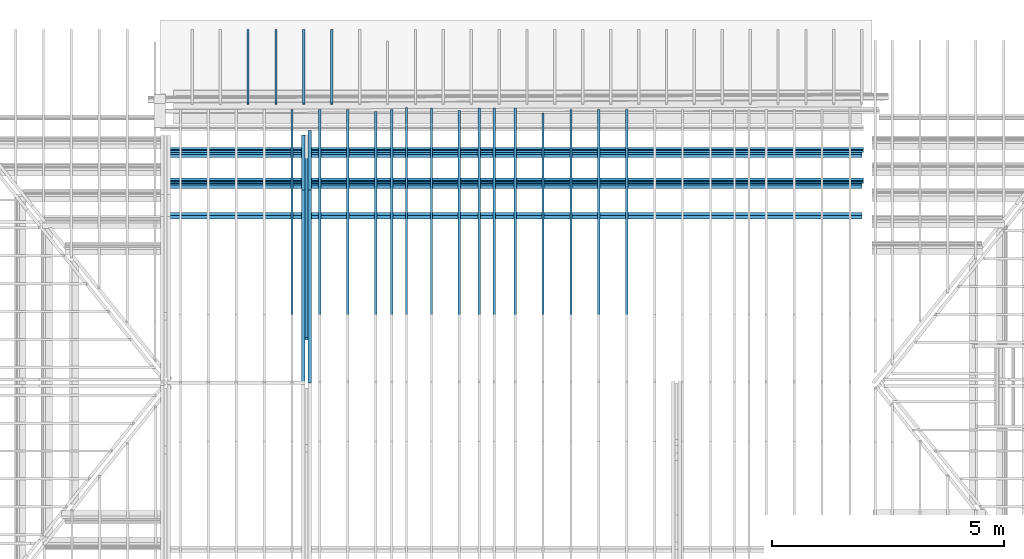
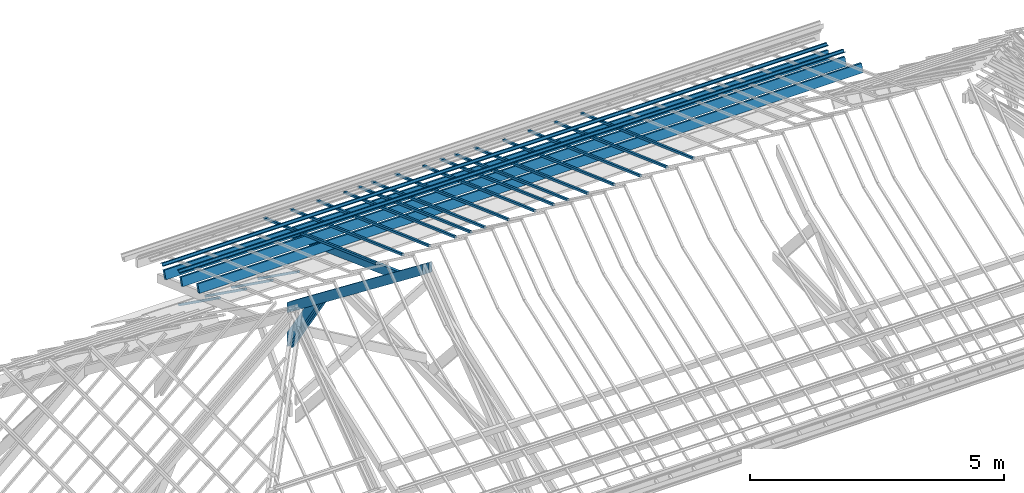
# One storey, part 8 of 18: 29 beams.
"""IFC2X3 building model written with IfcOpenShell, lengths in centimetres."""

from ifc_helpers import new_model, entity, si_unit, converted_unit, direction, frame, frame_2d, origin, origin_2d_with_axis, place, context, subcontext, project, spatial, polyline, circle_curve, parameter, trimmed, segment, composite_curve, rectangle, outline, extrude, clip, halfspace, material, type_object, element, save


model = new_model("IFC2X3")

# Units and contexts
model_context = context("Model", 3, precision=0.001, world=frame((0.0, 0.0, 13090.0)), true_north=direction((6.123233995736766e-17, 1.0)))
body_context = subcontext(model_context, "Body", "Model", "MODEL_VIEW")
ifc_project = project(units=[si_unit("LENGTHUNIT", "METRE", prefix="CENTI"), si_unit("AREAUNIT", "SQUARE_METRE"), si_unit("VOLUMEUNIT", "CUBIC_METRE"), converted_unit("PLANEANGLEUNIT", "DEGREE", entity("IfcPlaneAngleMeasure", 0.017453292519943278), si_unit("PLANEANGLEUNIT", "RADIAN"), dimensions=[0, 0, 0, 0, 0, 0, 0])], contexts=[model_context])

# Site, building, storey
site_placement = place(None, origin())
site = spatial("IfcSite", under=ifc_project, at=site_placement, Name="Default", CompositionType="ELEMENT")
building_placement = place(site_placement, origin())
building = spatial("IfcBuilding", under=site, at=building_placement, Name="e 39 logements et 22 maisons relais", CompositionType="ELEMENT")
storey_placement = place(building_placement, frame((0.0, 0.0, 610.0)))
storey = spatial("IfcBuildingStorey", under=building, at=storey_placement, Name="R+2", CompositionType="ELEMENT", Elevation=609.9999999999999)

# Beams
ifc_material_1 = material(Name="Bois - Bois de construction de dimensions courantes")
beam_type_1 = type_object("IfcBeamType", Name="Poutre - Bois de construction de dimensions courantes:70 200", PredefinedType="BEAM")
beam_1_placement = place(storey_placement, frame((-609.2819705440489, 620.5476302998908, 32.017353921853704), z_axis=(0.0, 0.3420201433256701, 0.939692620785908), x_axis=(0.0, -0.939692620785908, 0.3420201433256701)))
element("IfcBeam", 1, at=beam_1_placement, inside=storey, type_object=beam_type_1, material=ifc_material_1, Name="Poutre - Bois de construction de dimensions courantes:70 200", ObjectType="Poutre - Bois de construction de dimensions courantes:70 200", context=body_context, shape_type="Clipping", body=[
    clip(clip(extrude(rectangle(XDim=20.000000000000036, YDim=7.000000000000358, at=frame_2d((5.395683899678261e-14, -5.062616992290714e-14), x_axis=(0.0, 1.0))), frame((88.51981701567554, 0.0, -72.0), z_axis=(1.0, 0.0, 0.0), x_axis=(0.0, 1.0, 0.0)), (0.0, 0.0, 1.0), 469.80495065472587), halfspace(frame((406.3746549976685, 692.7097326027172, -126.9576591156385), z_axis=(0.30651873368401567, 0.0, -0.9518646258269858), x_axis=(0.0, -1.0, 0.0)), False)), halfspace(frame((108.43711462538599, 692.709732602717, -23.39222819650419), z_axis=(-0.946818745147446, 0.0, 0.3217674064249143), x_axis=(0.0, -1.0, 0.0)), False)),
])
beam_2_placement = place(storey_placement, frame((-602.2819705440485, 453.59121775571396, -45.190373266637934), z_axis=(0.0, 0.6135902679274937, 0.7896245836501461), x_axis=(0.0, -0.7896245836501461, 0.6135902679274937)))
element("IfcBeam", 2, at=beam_2_placement, inside=storey, type_object=beam_type_1, material=ifc_material_1, Name="Poutre - Bois de construction de dimensions courantes:70 200", ObjectType="Poutre - Bois de construction de dimensions courantes:70 200", context=body_context, shape_type="Clipping", body=[
    clip(clip(extrude(rectangle(XDim=19.999999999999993, YDim=7.00000000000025, at=frame_2d((2.1316282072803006e-14, 5.417888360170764e-14), x_axis=(1.0, 0.0))), frame((-135.4129744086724, 0.0, -72.0), z_axis=(1.0, 0.0, 0.0), x_axis=(0.0, 0.0, -1.0)), (0.0, 0.0, 1.0), 691.300022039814), halfspace(frame((583.1394885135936, -722.2841565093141, -26.929044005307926), z_axis=(0.7896245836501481, 0.0, -0.613590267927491), x_axis=(0.0, 1.0, 0.0)), False)), halfspace(frame((-172.2556364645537, -722.2841565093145, -129.4125376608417), z_axis=(-0.7896245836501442, 0.0, 0.6135902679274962), x_axis=(0.0, 1.0, 0.0)), False)),
])
beam_3_placement = place(storey_placement, frame((-602.2819705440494, 410.93499768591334, -58.25709603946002), z_axis=(1.0, 0.0, 0.0), x_axis=(0.0, -0.5644090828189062, 0.8254952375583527)))
element("IfcBeam", 3, at=beam_3_placement, inside=storey, type_object=beam_type_1, material=ifc_material_1, Name="Poutre - Bois de construction de dimensions courantes:70 200", ObjectType="Poutre - Bois de construction de dimensions courantes:70 200", context=body_context, shape_type="Clipping", body=[
    clip(clip(extrude(rectangle(XDim=19.999999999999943, YDim=7.000000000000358, at=frame_2d((-5.417888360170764e-14, 1.0480505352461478e-13), x_axis=(0.0, 1.0))), frame((-250.89013351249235, 30.0, 0.0), z_axis=(1.0, 0.0, 0.0), x_axis=(0.0, 0.0, -1.0)), (0.0, 0.0, 1.0), 226.59915696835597), halfspace(frame((-268.89013283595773, 52.306991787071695, -628.0494014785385), z_axis=(-0.5644090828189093, -0.8254952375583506, 0.0), x_axis=(0.0, 0.0, 1.0)), False)), halfspace(frame((167.9941224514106, 101.69592037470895, 628.0494014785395), z_axis=(0.30551541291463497, -0.9521871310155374, 0.0), x_axis=(0.0, 0.0, -1.0)), False)),
])
beam_4_placement = place(storey_placement, frame((-616.281970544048, 401.4272578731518, -44.351235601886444), z_axis=(1.0, 0.0, 0.0), x_axis=(0.0, -0.5644090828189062, 0.8254952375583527)))
element("IfcBeam", 4, at=beam_4_placement, inside=storey, type_object=beam_type_1, material=ifc_material_1, Name="Poutre - Bois de construction de dimensions courantes:70 200", ObjectType="Poutre - Bois de construction de dimensions courantes:70 200", context=body_context, shape_type="Clipping", body=[
    clip(clip(extrude(rectangle(XDim=20.0, YDim=7.000000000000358, at=frame_2d((-5.417888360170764e-14, 0.0), x_axis=(0.0, 1.0))), frame((-250.89013351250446, 30.0, 0.0), z_axis=(1.0, 0.0, 0.0), x_axis=(0.0, 0.0, -1.0)), (0.0, 0.0, 1.0), 209.7536806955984), halfspace(frame((-268.89013283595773, 52.30699178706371, -628.0494014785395), z_axis=(-0.5644090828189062, -0.8254952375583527, 0.0), x_axis=(0.0, 0.0, 1.0)), False)), halfspace(frame((168.627515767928, 107.30412897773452, 628.0494014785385), z_axis=(0.30551541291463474, -0.9521871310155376, 0.0), x_axis=(0.0, 0.0, -1.0)), False)),
])
beam_5_placement = place(storey_placement, frame((-616.2819705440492, 456.493466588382, -39.84706399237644), z_axis=(0.0, 0.6135902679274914, 0.789624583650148), x_axis=(0.0, -0.789624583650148, 0.6135902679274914)))
element("IfcBeam", 5, at=beam_5_placement, inside=storey, type_object=beam_type_1, material=ifc_material_1, Name="Poutre - Bois de construction de dimensions courantes:70 200", ObjectType="Poutre - Bois de construction de dimensions courantes:70 200", context=body_context, shape_type="Clipping", body=[
    clip(clip(extrude(rectangle(XDim=20.000000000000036, YDim=7.000000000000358, at=frame_2d((-4.263256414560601e-14, 0.0), x_axis=(1.0, 0.0))), frame((-136.39988995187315, 0.0, -78.0), z_axis=(1.0, 0.0, 0.0), x_axis=(0.0, 0.0, -1.0)), (0.0, 0.0, 1.0), 691.3000220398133), halfspace(frame((583.9191696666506, -725.7454428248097, -30.65562434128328), z_axis=(0.789624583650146, 0.0, -0.6135902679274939), x_axis=(0.0, 1.0, 0.0)), False)), halfspace(frame((-172.90479902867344, -725.7454428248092, -134.97788595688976), z_axis=(-0.789624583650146, 0.0, 0.6135902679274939), x_axis=(0.0, 1.0, 0.0)), False)),
])
beam_6_placement = place(storey_placement, frame((-570.9302602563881, 474.0583177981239, 46.699999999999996), z_axis=(-0.0007705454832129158, 0.0, 0.9999997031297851), x_axis=(-0.9999997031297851, 0.0, -0.0007705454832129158)))
element("IfcBeam", 6, at=beam_6_placement, inside=storey, type_object=beam_type_1, material=ifc_material_1, Name="Poutre - Bois de construction de dimensions courantes:70 200", ObjectType="Poutre - Bois de construction de dimensions courantes:70 200", context=body_context, shape_type="SweptSolid", body=[
    extrude(rectangle(XDim=20.000000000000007, YDim=7.000000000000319, at=frame_2d((2.55351295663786e-14, -9.769962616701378e-15), x_axis=(0.0, 1.0))), frame((-1156.6203279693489, 5.9169484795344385, -16.256682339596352), z_axis=(1.0, 0.0, 0.0), x_axis=(0.0, -0.9396926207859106, -0.3420201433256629)), (0.0, 0.0, 1.0), 1508.7195752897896),
])
beam_7_placement = place(storey_placement, frame((-570.9302602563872, 342.41458209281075, 94.23000000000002), z_axis=(-0.0016107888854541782, 0.0, 0.9999987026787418), x_axis=(-0.9999987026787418, 0.0, -0.0016107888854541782)))
element("IfcBeam", 7, at=beam_7_placement, inside=storey, type_object=beam_type_1, material=ifc_material_1, Name="Poutre - Bois de construction de dimensions courantes:70 200", ObjectType="Poutre - Bois de construction de dimensions courantes:70 200", context=body_context, shape_type="SweptSolid", body=[
    extrude(rectangle(XDim=19.999999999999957, YDim=7.000000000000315, at=frame_2d((9.481304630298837e-14, 2.3092638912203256e-14), x_axis=(0.0, 1.0))), frame((-1156.6202171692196, 5.95115049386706, -16.350651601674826), z_axis=(1.0, 0.0, 0.0), x_axis=(0.0, -0.9396926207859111, -0.3420201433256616)), (0.0, 0.0, 1.0), 1508.71957528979),
])
beam_8_placement = place(storey_placement, frame((-570.9302602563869, 408.28168964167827, 70.52), z_axis=(-0.0012547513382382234, 0.0, 0.9999992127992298), x_axis=(-0.9999992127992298, 0.0, -0.0012547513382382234)))
element("IfcBeam", 8, at=beam_8_placement, inside=storey, type_object=beam_type_1, material=ifc_material_1, Name="Poutre - Bois de construction de dimensions courantes:70 200", ObjectType="Poutre - Bois de construction de dimensions courantes:70 200", context=body_context, shape_type="SweptSolid", body=[
    extrude(rectangle(XDim=19.999999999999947, YDim=7.000000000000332, at=frame_2d((-6.23945339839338e-14, -9.14823772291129e-14), x_axis=(0.0, 1.0))), frame((-1156.6202736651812, 5.9853525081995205, -16.444620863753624), z_axis=(1.0, 0.0, 0.0), x_axis=(0.0, -0.9396926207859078, -0.3420201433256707)), (0.0, 0.0, 1.0), 1508.71957528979),
])
ifc_material_2 = material(Name="neuf")
beam_type_2 = type_object("IfcBeamType", Name="panne z:panne z", PredefinedType="BEAM")
beam_9_placement = place(storey_placement, frame((-570.9302602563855, 480.2651849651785, 55.60000000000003), z_axis=(-0.0007470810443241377, 0.0, 0.9999997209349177), x_axis=(-0.9999997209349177, 0.0, -0.0007470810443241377)))
element("IfcBeam", 9, at=beam_9_placement, inside=storey, type_object=beam_type_2, material=ifc_material_2, Name="panne z:panne z", ObjectType="panne z:panne z", context=body_context, shape_type="SweptSolid", body=[
    extrude(outline(composite_curve([segment(polyline([(0.3000000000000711, -3.0), (4.600000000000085, -3.0)]), True, "CONTINUOUS"), segment(trimmed(circle_curve(frame_2d((4.599999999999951, -2.5999999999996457), x_axis=(0.0, -1.0)), 0.40000000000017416), [parameter(0.0)], [parameter(89.99999999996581)], True, "PARAMETER"), True, "CONTINUOUS"), segment(polyline([(5.0, -2.599999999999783), (5.0, -1.0)]), True, "CONTINUOUS"), segment(polyline([(5.0, -1.0), (4.800000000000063, -1.0)]), True, "CONTINUOUS"), segment(polyline([(4.80000000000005, -1.0), (4.8000000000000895, -2.5999999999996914)]), True, "CONTINUOUS"), segment(trimmed(circle_curve(frame_2d((4.6000000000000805, -2.5999999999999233), x_axis=(1.0, 0.0)), 0.19999999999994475), [parameter(269.9999999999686)], [parameter(0.0)], True, "PARAMETER"), False, "CONTINUOUS"), segment(polyline([(4.600000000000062, -2.7999999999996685), (0.30000000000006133, -2.7999999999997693)]), True, "CONTINUOUS"), segment(trimmed(circle_curve(frame_2d((0.3000000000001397, -2.5999999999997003), x_axis=(0.0, -1.0)), 0.20000000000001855), [parameter(270.0000000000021)], [parameter(0.0)], True, "PARAMETER"), False, "CONTINUOUS"), segment(polyline([(0.10000000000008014, -2.599999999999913), (0.10000000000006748, 2.6000000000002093)]), True, "CONTINUOUS"), segment(trimmed(circle_curve(frame_2d((-0.30000000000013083, 2.6000000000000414), x_axis=(1.0, 0.0)), 0.40000000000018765), [parameter(0.0)], [parameter(89.99999999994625)], True, "PARAMETER"), True, "CONTINUOUS"), segment(polyline([(-0.2999999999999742, 3.0), (-4.5999999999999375, 3.0)]), True, "CONTINUOUS"), segment(trimmed(circle_curve(frame_2d((-4.5999999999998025, 2.600000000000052), x_axis=(0.0, 1.0)), 0.4000000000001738), [parameter(0.0)], [parameter(89.99999999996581)], True, "PARAMETER"), True, "CONTINUOUS"), segment(polyline([(-5.0, 2.600000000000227), (-5.0, 1.0)]), True, "CONTINUOUS"), segment(polyline([(-5.0, 1.0), (-4.799999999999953, 1.0)]), True, "CONTINUOUS"), segment(polyline([(-4.799999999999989, 1.0), (-4.799999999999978, 2.5999999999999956)]), True, "CONTINUOUS"), segment(trimmed(circle_curve(frame_2d((-4.599999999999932, 2.60000000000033), x_axis=(-1.0, 0.0)), 0.19999999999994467), [parameter(269.9999999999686)], [parameter(0.0)], True, "PARAMETER"), False, "CONTINUOUS"), segment(polyline([(-4.599999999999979, 2.800000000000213), (-0.2999999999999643, 2.8000000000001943)]), True, "CONTINUOUS"), segment(trimmed(circle_curve(frame_2d((-0.3000000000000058, 2.600000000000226), x_axis=(0.0, 1.0)), 0.20000000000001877), [parameter(270.0000000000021)], [parameter(0.0)], True, "PARAMETER"), False, "CONTINUOUS"), segment(polyline([(-0.10000000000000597, 2.6000000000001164), (-0.09999999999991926, -2.5999999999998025)]), True, "CONTINUOUS"), segment(trimmed(circle_curve(frame_2d((0.30000000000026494, -2.599999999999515), x_axis=(-1.0, 0.0)), 0.40000000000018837), [parameter(0.0)], [parameter(89.99999999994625)], True, "PARAMETER"), True, "CONTINUOUS")], self_intersect=False)), frame((-1159.7812856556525, 2.5591430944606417, -7.0311878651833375), z_axis=(1.0, 0.0, 0.0), x_axis=(0.0, -0.9396926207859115, -0.34202014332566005)), (0.0, 0.0, 1.0), 1511.8805619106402),
])
beam_10_placement = place(storey_placement, frame((-570.9302602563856, 414.1836422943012, 79.48000000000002), z_axis=(-0.0010059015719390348, 0.0, 0.9999994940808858), x_axis=(-0.9999994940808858, 0.0, -0.0010059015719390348)))
element("IfcBeam", 10, at=beam_10_placement, inside=storey, type_object=beam_type_2, material=ifc_material_2, Name="panne z:panne z", ObjectType="panne z:panne z", context=body_context, shape_type="SweptSolid", body=[
    extrude(outline(composite_curve([segment(polyline([(0.29999999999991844, -3.0), (4.5999999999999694, -3.0)]), True, "CONTINUOUS"), segment(trimmed(circle_curve(frame_2d((4.599999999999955, -2.599999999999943), x_axis=(0.0, -1.0)), 0.40000000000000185), [parameter(0.0)], [parameter(89.99999999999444)], True, "PARAMETER"), True, "CONTINUOUS"), segment(polyline([(5.0, -2.599999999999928), (5.0, -1.0)]), True, "CONTINUOUS"), segment(polyline([(5.0, -1.0), (4.800000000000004, -1.0)]), True, "CONTINUOUS"), segment(polyline([(4.799999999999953, -1.0), (4.79999999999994, -2.5999999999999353)]), True, "CONTINUOUS"), segment(trimmed(circle_curve(frame_2d((4.600000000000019, -2.6000000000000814), x_axis=(1.0, 0.0)), 0.19999999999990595), [parameter(269.9999999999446)], [parameter(0.0)], True, "PARAMETER"), False, "CONTINUOUS"), segment(polyline([(4.599999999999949, -2.799999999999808), (0.29999999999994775, -2.799999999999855)]), True, "CONTINUOUS"), segment(trimmed(circle_curve(frame_2d((0.29999999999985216, -2.599999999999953), x_axis=(0.0, -1.0)), 0.1999999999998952), [parameter(269.9999999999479)], [parameter(0.0)], True, "PARAMETER"), False, "CONTINUOUS"), segment(polyline([(0.099999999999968, -2.599999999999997), (0.099999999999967, 2.600000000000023)]), True, "CONTINUOUS"), segment(trimmed(circle_curve(frame_2d((-0.3000000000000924, 2.599999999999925), x_axis=(1.0, 0.0)), 0.4000000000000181), [parameter(0.0)], [parameter(90.00000000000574)], True, "PARAMETER"), True, "CONTINUOUS"), segment(polyline([(-0.3000000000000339, 3.0), (-4.600000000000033, 3.0)]), True, "CONTINUOUS"), segment(trimmed(circle_curve(frame_2d((-4.599999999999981, 2.600000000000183), x_axis=(0.0, 1.0)), 0.40000000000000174), [parameter(0.0)], [parameter(89.99999999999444)], True, "PARAMETER"), True, "CONTINUOUS"), segment(polyline([(-5.0, 2.600000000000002), (-5.0, 1.0)]), True, "CONTINUOUS"), segment(polyline([(-5.0, 1.0), (-4.800000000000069, 1.0)]), True, "CONTINUOUS"), segment(polyline([(-4.800000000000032, 1.0), (-4.800000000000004, 2.6000000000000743)]), True, "CONTINUOUS"), segment(trimmed(circle_curve(frame_2d((-4.600000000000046, 2.600000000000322), x_axis=(-1.0, 0.0)), 0.1999999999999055), [parameter(269.9999999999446)], [parameter(0.0)], True, "PARAMETER"), False, "CONTINUOUS"), segment(polyline([(-4.600000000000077, 2.8000000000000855), (-0.3000000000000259, 2.8000000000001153)]), True, "CONTINUOUS"), segment(trimmed(circle_curve(frame_2d((-0.3000000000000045, 2.6000000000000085), x_axis=(0.0, 1.0)), 0.19999999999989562), [parameter(269.9999999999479)], [parameter(0.0)], True, "PARAMETER"), False, "CONTINUOUS"), segment(polyline([(-0.10000000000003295, 2.6000000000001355), (-0.10000000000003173, -2.5999999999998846)]), True, "CONTINUOUS"), segment(trimmed(circle_curve(frame_2d((0.29999999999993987, -2.5999999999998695), x_axis=(-1.0, 0.0)), 0.40000000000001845), [parameter(0.0)], [parameter(90.00000000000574)], True, "PARAMETER"), True, "CONTINUOUS")], self_intersect=False)), frame((-1159.7812856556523, 2.5249410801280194, -6.937218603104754), z_axis=(1.0, 0.0, 0.0), x_axis=(0.0, -0.9396926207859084, -0.3420201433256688)), (0.0, 0.0, 1.0), 1511.8806121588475),
])
beam_type_3 = type_object("IfcBeamType", Name="Poutre - Bois de construction de dimensions courantes:50 50", PredefinedType="BEAM")
beam_11_placement = place(storey_placement, frame((-460.2819705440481, 636.3639316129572, 59.23829359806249), z_axis=(0.0, 0.33913930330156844, 0.9407361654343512), x_axis=(0.0, -0.9407361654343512, 0.33913930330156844)))
element("IfcBeam", 11, at=beam_11_placement, inside=storey, type_object=beam_type_3, material=ifc_material_1, Name="Poutre - Bois de construction de dimensions courantes:50 50", ObjectType="Poutre - Bois de construction de dimensions courantes:50 50", context=body_context, shape_type="SweptSolid", body=[
    extrude(rectangle(XDim=5.000000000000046, YDim=5.000000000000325, at=frame_2d((-6.94999613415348e-14, 0.0), x_axis=(1.0, 0.0))), frame((55.210108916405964, 0.0, -71.5000000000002), z_axis=(1.0, 0.0, 0.0), x_axis=(0.0, 0.0, -1.0)), (0.0, 0.0, 1.0), 465.4317089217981),
])
beam_12_placement = place(storey_placement, frame((-520.2819705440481, 636.3639316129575, 59.23829359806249), z_axis=(0.0, 0.33913930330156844, 0.9407361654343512), x_axis=(0.0, -0.9407361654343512, 0.33913930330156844)))
element("IfcBeam", 12, at=beam_12_placement, inside=storey, type_object=beam_type_3, material=ifc_material_1, Name="Poutre - Bois de construction de dimensions courantes:50 50", ObjectType="Poutre - Bois de construction de dimensions courantes:50 50", context=body_context, shape_type="SweptSolid", body=[
    extrude(rectangle(XDim=4.999999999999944, YDim=5.000000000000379, at=frame_2d((-6.94999613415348e-14, 5.417888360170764e-14), x_axis=(1.0, 0.0))), frame((50.616460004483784, 0.0, -71.5000000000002), z_axis=(1.0, 0.0, 0.0), x_axis=(0.0, 0.0, -1.0)), (0.0, 0.0, 1.0), 470.3229988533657),
])
beam_13_placement = place(storey_placement, frame((-580.2819705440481, 636.3639316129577, 59.23829359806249), z_axis=(0.0, 0.33913930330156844, 0.9407361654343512), x_axis=(0.0, -0.9407361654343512, 0.33913930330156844)))
element("IfcBeam", 13, at=beam_13_placement, inside=storey, type_object=beam_type_3, material=ifc_material_1, Name="Poutre - Bois de construction de dimensions courantes:50 50", ObjectType="Poutre - Bois de construction de dimensions courantes:50 50", context=body_context, shape_type="SweptSolid", body=[
    extrude(rectangle(XDim=4.999999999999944, YDim=5.000000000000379, at=frame_2d((-6.94999613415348e-14, -5.417888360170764e-14), x_axis=(1.0, 0.0))), frame((50.61646000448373, 0.0, -71.5000000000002), z_axis=(1.0, 0.0, 0.0), x_axis=(0.0, 0.0, -1.0)), (0.0, 0.0, 1.0), 470.3229988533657),
])
beam_14_placement = place(storey_placement, frame((-640.2819705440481, 636.3639316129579, 59.23829359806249), z_axis=(0.0, 0.33913930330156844, 0.9407361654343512), x_axis=(0.0, -0.9407361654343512, 0.33913930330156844)))
element("IfcBeam", 14, at=beam_14_placement, inside=storey, type_object=beam_type_3, material=ifc_material_1, Name="Poutre - Bois de construction de dimensions courantes:50 50", ObjectType="Poutre - Bois de construction de dimensions courantes:50 50", context=body_context, shape_type="SweptSolid", body=[
    extrude(rectangle(XDim=4.999999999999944, YDim=5.000000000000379, at=frame_2d((-6.94999613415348e-14, 5.417888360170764e-14), x_axis=(1.0, 0.0))), frame((50.616460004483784, 0.0, -71.5000000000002), z_axis=(1.0, 0.0, 0.0), x_axis=(0.0, 0.0, -1.0)), (0.0, 0.0, 1.0), 470.3229988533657),
])
beam_15_placement = place(storey_placement, frame((-160.21147913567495, 636.3639316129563, 59.23829359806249), z_axis=(0.0, 0.33913930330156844, 0.9407361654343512), x_axis=(0.0, -0.9407361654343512, 0.33913930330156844)))
element("IfcBeam", 15, at=beam_15_placement, inside=storey, type_object=beam_type_3, material=ifc_material_1, Name="Poutre - Bois de construction de dimensions courantes:50 50", ObjectType="Poutre - Bois de construction de dimensions courantes:50 50", context=body_context, shape_type="SweptSolid", body=[
    extrude(rectangle(XDim=4.999999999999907, YDim=5.000000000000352, at=frame_2d((-1.7119639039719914e-13, 1.3322676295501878e-14), x_axis=(1.0, 0.0))), frame((46.979920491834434, 0.0, -71.5000000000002), z_axis=(1.0, 0.0, 0.0), x_axis=(0.0, 0.0, -1.0)), (0.0, 0.0, 1.0), 473.959538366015),
])
beam_16_placement = place(storey_placement, frame((-280.21147913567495, 636.3639316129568, 59.23829359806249), z_axis=(0.0, 0.33913930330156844, 0.9407361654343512), x_axis=(0.0, -0.9407361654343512, 0.33913930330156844)))
element("IfcBeam", 16, at=beam_16_placement, inside=storey, type_object=beam_type_3, material=ifc_material_1, Name="Poutre - Bois de construction de dimensions courantes:50 50", ObjectType="Poutre - Bois de construction de dimensions courantes:50 50", context=body_context, shape_type="SweptSolid", body=[
    extrude(rectangle(XDim=5.000000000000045, YDim=5.000000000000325, at=frame_2d((-1.709743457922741e-13, 0.0), x_axis=(1.0, 0.0))), frame((53.44896830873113, 0.0, -71.5000000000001), z_axis=(1.0, 0.0, 0.0), x_axis=(0.0, 0.0, -1.0)), (0.0, 0.0, 1.0), 467.49049054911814),
])
beam_17_placement = place(storey_placement, frame((-340.21147913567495, 636.363931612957, 59.23829359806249), z_axis=(0.0, 0.33913930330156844, 0.9407361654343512), x_axis=(0.0, -0.9407361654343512, 0.33913930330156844)))
element("IfcBeam", 17, at=beam_17_placement, inside=storey, type_object=beam_type_3, material=ifc_material_1, Name="Poutre - Bois de construction de dimensions courantes:50 50", ObjectType="Poutre - Bois de construction de dimensions courantes:50 50", context=body_context, shape_type="SweptSolid", body=[
    extrude(rectangle(XDim=4.999999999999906, YDim=5.000000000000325, at=frame_2d((-1.709743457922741e-13, 0.0), x_axis=(1.0, 0.0))), frame((46.979920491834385, 0.0, -71.5000000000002), z_axis=(1.0, 0.0, 0.0), x_axis=(0.0, 0.0, -1.0)), (0.0, 0.0, 1.0), 473.959538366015),
])
beam_18_placement = place(storey_placement, frame((-393.9276553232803, 636.363931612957, 59.23829359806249), z_axis=(0.0, 0.33913930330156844, 0.9407361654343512), x_axis=(0.0, -0.9407361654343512, 0.33913930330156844)))
element("IfcBeam", 18, at=beam_18_placement, inside=storey, type_object=beam_type_3, material=ifc_material_1, Name="Poutre - Bois de construction de dimensions courantes:50 50", ObjectType="Poutre - Bois de construction de dimensions courantes:50 50", context=body_context, shape_type="SweptSolid", body=[
    extrude(rectangle(XDim=4.999999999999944, YDim=5.000000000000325, at=frame_2d((-6.94999613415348e-14, 0.0), x_axis=(1.0, 0.0))), frame((46.969236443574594, 0.0, -71.5000000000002), z_axis=(1.0, 0.0, 0.0), x_axis=(0.0, 0.0, -1.0)), (0.0, 0.0, 1.0), 473.9702224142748),
])
beam_19_placement = place(storey_placement, frame((79.82376656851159, 636.3639316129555, 59.23829359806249), z_axis=(0.0, 0.33913930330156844, 0.9407361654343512), x_axis=(0.0, -0.9407361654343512, 0.33913930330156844)))
element("IfcBeam", 19, at=beam_19_placement, inside=storey, type_object=beam_type_3, material=ifc_material_1, Name="Poutre - Bois de construction de dimensions courantes:50 50", ObjectType="Poutre - Bois de construction de dimensions courantes:50 50", context=body_context, shape_type="SweptSolid", body=[
    extrude(rectangle(XDim=4.999999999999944, YDim=5.000000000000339, at=frame_2d((-6.94999613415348e-14, -6.8833827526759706e-15), x_axis=(1.0, 0.0))), frame((50.616460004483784, 0.0, -71.5000000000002), z_axis=(1.0, 0.0, 0.0), x_axis=(0.0, 0.0, -1.0)), (0.0, 0.0, 1.0), 470.3229988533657),
])
beam_20_placement = place(storey_placement, frame((19.823766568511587, 636.3639316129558, 59.23829359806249), z_axis=(0.0, 0.33913930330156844, 0.9407361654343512), x_axis=(0.0, -0.9407361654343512, 0.33913930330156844)))
element("IfcBeam", 20, at=beam_20_placement, inside=storey, type_object=beam_type_3, material=ifc_material_1, Name="Poutre - Bois de construction de dimensions courantes:50 50", ObjectType="Poutre - Bois de construction de dimensions courantes:50 50", context=body_context, shape_type="SweptSolid", body=[
    extrude(rectangle(XDim=4.999999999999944, YDim=5.000000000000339, at=frame_2d((-6.94999613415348e-14, 0.0), x_axis=(1.0, 0.0))), frame((50.61646000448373, 0.0, -71.5000000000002), z_axis=(1.0, 0.0, 0.0), x_axis=(0.0, 0.0, -1.0)), (0.0, 0.0, 1.0), 470.3229988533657),
])
beam_21_placement = place(storey_placement, frame((-40.17623343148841, 636.363931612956, 59.23829359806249), z_axis=(0.0, 0.33913930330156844, 0.9407361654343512), x_axis=(0.0, -0.9407361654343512, 0.33913930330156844)))
element("IfcBeam", 21, at=beam_21_placement, inside=storey, type_object=beam_type_3, material=ifc_material_1, Name="Poutre - Bois de construction de dimensions courantes:50 50", ObjectType="Poutre - Bois de construction de dimensions courantes:50 50", context=body_context, shape_type="SweptSolid", body=[
    extrude(rectangle(XDim=4.999999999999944, YDim=5.000000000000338, at=frame_2d((-6.94999613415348e-14, 0.0), x_axis=(1.0, 0.0))), frame((50.616460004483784, 0.0, -71.5000000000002), z_axis=(1.0, 0.0, 0.0), x_axis=(0.0, 0.0, -1.0)), (0.0, 0.0, 1.0), 470.3229988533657),
])
beam_22_placement = place(storey_placement, frame((-100.21147913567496, 636.3639316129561, 59.23829359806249), z_axis=(0.0, 0.33913930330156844, 0.9407361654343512), x_axis=(0.0, -0.9407361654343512, 0.33913930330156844)))
element("IfcBeam", 22, at=beam_22_placement, inside=storey, type_object=beam_type_3, material=ifc_material_1, Name="Poutre - Bois de construction de dimensions courantes:50 50", ObjectType="Poutre - Bois de construction de dimensions courantes:50 50", context=body_context, shape_type="SweptSolid", body=[
    extrude(rectangle(XDim=4.999999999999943, YDim=5.000000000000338, at=origin_2d_with_axis()), frame((58.42294638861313, 0.0, -71.49999999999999), z_axis=(1.0, 0.0, 0.0), x_axis=(0.0, 0.0, -1.0)), (0.0, 0.0, 1.0), 462.5165124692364),
])
beam_23_placement = place(storey_placement, frame((-425.8819705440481, 636.3639316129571, 59.23829359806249), z_axis=(0.0, 0.33913930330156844, 0.9407361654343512), x_axis=(0.0, -0.9407361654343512, 0.33913930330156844)))
element("IfcBeam", 23, at=beam_23_placement, inside=storey, type_object=beam_type_3, material=ifc_material_1, Name="Poutre - Bois de construction de dimensions courantes:50 50", ObjectType="Poutre - Bois de construction de dimensions courantes:50 50", context=body_context, shape_type="SweptSolid", body=[
    extrude(rectangle(XDim=4.999999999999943, YDim=5.000000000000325, at=frame_2d((5.129230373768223e-14, 0.0), x_axis=(1.0, 0.0))), frame((50.616460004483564, 0.0, -71.5000000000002), z_axis=(1.0, 0.0, 0.0), x_axis=(0.0, 0.0, -1.0)), (0.0, 0.0, 1.0), 470.3229988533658),
])
beam_24_placement = place(storey_placement, frame((-237.61147913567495, 636.3639316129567, 59.23829359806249), z_axis=(0.0, 0.33913930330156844, 0.9407361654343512), x_axis=(0.0, -0.9407361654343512, 0.33913930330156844)))
element("IfcBeam", 24, at=beam_24_placement, inside=storey, type_object=beam_type_3, material=ifc_material_1, Name="Poutre - Bois de construction de dimensions courantes:50 50", ObjectType="Poutre - Bois de construction de dimensions courantes:50 50", context=body_context, shape_type="SweptSolid", body=[
    extrude(rectangle(XDim=5.000000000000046, YDim=5.000000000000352, at=frame_2d((6.927791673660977e-14, -1.3322676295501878e-14), x_axis=(1.0, 0.0))), frame((47.001288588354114, 0.0, -71.5000000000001), z_axis=(1.0, 0.0, 0.0), x_axis=(0.0, 0.0, -1.0)), (0.0, 0.0, 1.0), 473.9381702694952),
])
beam_25_placement = place(storey_placement, frame((-205.0738127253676, 636.3639316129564, 59.23829359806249), z_axis=(0.0, 0.33913930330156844, 0.9407361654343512), x_axis=(0.0, -0.9407361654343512, 0.33913930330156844)))
element("IfcBeam", 25, at=beam_25_placement, inside=storey, type_object=beam_type_3, material=ifc_material_1, Name="Poutre - Bois de construction de dimensions courantes:50 50", ObjectType="Poutre - Bois de construction de dimensions courantes:50 50", context=body_context, shape_type="SweptSolid", body=[
    extrude(rectangle(XDim=5.000000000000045, YDim=5.000000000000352, at=frame_2d((-1.7119639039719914e-13, 1.3322676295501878e-14), x_axis=(1.0, 0.0))), frame((46.99060454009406, 0.0, -71.5000000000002), z_axis=(1.0, 0.0, 0.0), x_axis=(0.0, 0.0, -1.0)), (0.0, 0.0, 1.0), 473.94885431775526),
])
beam_26_placement = place(storey_placement, frame((-674.781970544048, 595.7154312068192, -82.26436383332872), z_axis=(0.0, 0.5804591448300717, 0.814289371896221), x_axis=(0.0, -0.814289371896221, 0.5804591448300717)))
element("IfcBeam", 26, at=beam_26_placement, inside=storey, type_object=beam_type_3, material=ifc_material_1, Name="Poutre - Bois de construction de dimensions courantes:50 50", ObjectType="Poutre - Bois de construction de dimensions courantes:50 50", context=body_context, shape_type="SweptSolid", body=[
    extrude(rectangle(XDim=4.999999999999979, YDim=5.000000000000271, at=frame_2d((-2.19824158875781e-14, 0.0), x_axis=(1.0, 0.0))), frame((-222.1836430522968, 0.0, -71.5000000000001), z_axis=(1.0, 0.0, 0.0), x_axis=(0.0, 0.0, -1.0)), (0.0, 0.0, 1.0), 193.3699514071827),
])
beam_27_placement = place(storey_placement, frame((-614.7819705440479, 595.715431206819, -82.26436383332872), z_axis=(0.0, 0.5804591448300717, 0.814289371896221), x_axis=(0.0, -0.814289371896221, 0.5804591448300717)))
element("IfcBeam", 27, at=beam_27_placement, inside=storey, type_object=beam_type_3, material=ifc_material_1, Name="Poutre - Bois de construction de dimensions courantes:50 50", ObjectType="Poutre - Bois de construction de dimensions courantes:50 50", context=body_context, shape_type="SweptSolid", body=[
    extrude(rectangle(XDim=4.999999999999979, YDim=5.000000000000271, at=frame_2d((-2.19824158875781e-14, -1.0835776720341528e-13), x_axis=(1.0, 0.0))), frame((-222.1836430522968, 0.0, -71.50000000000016), z_axis=(1.0, 0.0, 0.0), x_axis=(0.0, 0.0, -1.0)), (0.0, 0.0, 1.0), 193.3699514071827),
])
beam_28_placement = place(storey_placement, frame((-554.7819705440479, 595.7154312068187, -82.26436383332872), z_axis=(0.0, 0.5804591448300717, 0.814289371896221), x_axis=(0.0, -0.814289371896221, 0.5804591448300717)))
element("IfcBeam", 28, at=beam_28_placement, inside=storey, type_object=beam_type_3, material=ifc_material_1, Name="Poutre - Bois de construction de dimensions courantes:50 50", ObjectType="Poutre - Bois de construction de dimensions courantes:50 50", context=body_context, shape_type="SweptSolid", body=[
    extrude(rectangle(XDim=4.999999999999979, YDim=5.000000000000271, at=frame_2d((-2.19824158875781e-14, 0.0), x_axis=(1.0, 0.0))), frame((-222.18364305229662, 0.0, -71.50000000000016), z_axis=(1.0, 0.0, 0.0), x_axis=(0.0, 0.0, -1.0)), (0.0, 0.0, 1.0), 193.3699514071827),
])
beam_29_placement = place(storey_placement, frame((-734.781970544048, 595.7154312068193, -82.26436383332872), z_axis=(0.0, 0.5804591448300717, 0.814289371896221), x_axis=(0.0, -0.814289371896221, 0.5804591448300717)))
element("IfcBeam", 29, at=beam_29_placement, inside=storey, type_object=beam_type_3, material=ifc_material_1, Name="Poutre - Bois de construction de dimensions courantes:50 50", ObjectType="Poutre - Bois de construction de dimensions courantes:50 50", context=body_context, shape_type="SweptSolid", body=[
    extrude(rectangle(XDim=5.000000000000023, YDim=5.000000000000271, at=frame_2d((0.0, -1.0835776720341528e-13), x_axis=(1.0, 0.0))), frame((-222.18364305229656, 0.0, -71.5000000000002), z_axis=(1.0, 0.0, 0.0), x_axis=(0.0, 0.0, -1.0)), (0.0, 0.0, 1.0), 193.3699514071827),
])

save(model, "model.ifc")
